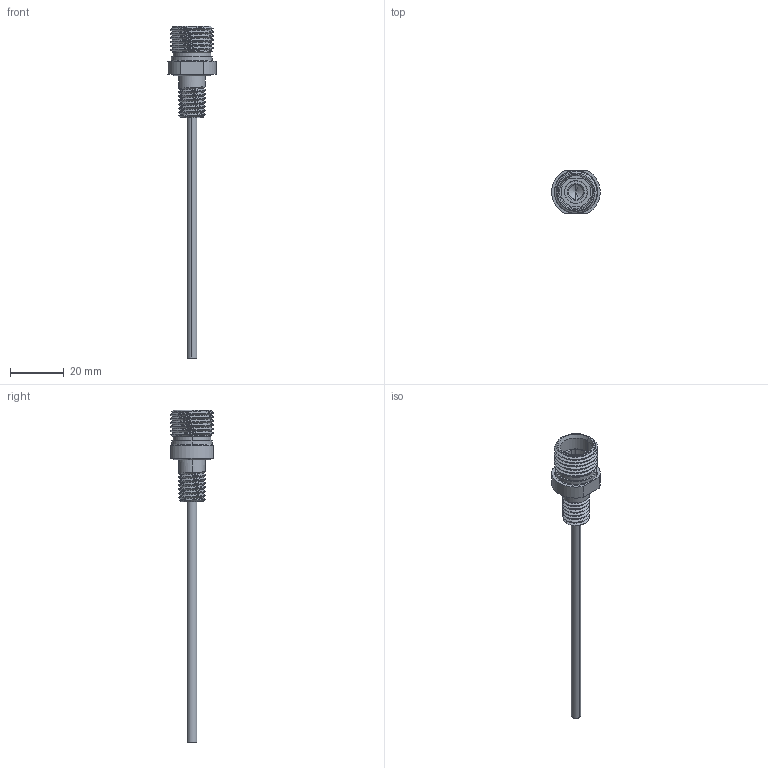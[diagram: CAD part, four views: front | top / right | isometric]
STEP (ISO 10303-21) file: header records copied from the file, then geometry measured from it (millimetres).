
FILE_DESCRIPTION (( 'STEP AP203' ), '1' );
FILE_NAME ('COB-1110-FX Bulkhead 1 Pin Female.STEP', '2024-07-24T16:38:29', ( '' ), ( '' ), 'SwSTEP 2.0', 'SolidWorks 2022', '' );
FILE_SCHEMA (( 'CONFIG_CONTROL_DESIGN' ));
Length unit declared in the file: millimetre
Products named in the file (1): COB-1110-FX Bulkhead 1 Pin Female
Bounding box: 17.97 x 16 x 123.25 mm (x, y, z)
Volume: 3779.5 mm3; surface area: 4294.1 mm2
Topology: 2 solids, 2 shells, 97 faces, 237 edges, 150 vertices
Faces by surface type: cylinder 53, cone 17, plane 15, torus 6, bspline 6
Entity records: 6842 total; most frequent: CARTESIAN_POINT 4653, ORIENTED_EDGE 470, DIRECTION 416, EDGE_CURVE 235, AXIS2_PLACEMENT_3D 170, VERTEX_POINT 150, EDGE_LOOP 107, ADVANCED_FACE 97
